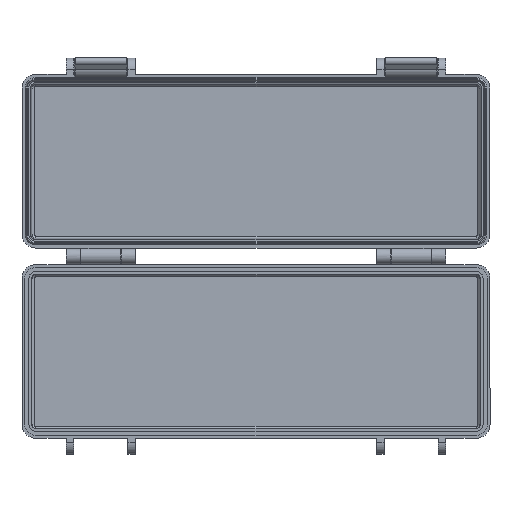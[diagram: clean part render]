
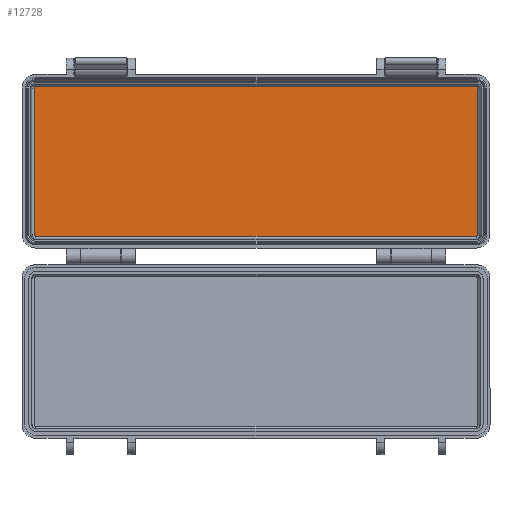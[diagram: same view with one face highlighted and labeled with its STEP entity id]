
A CAD part, top view. The second image highlights one B-rep face of the part: STEP entity #12728.
In plain terms, the highlighted planar face has unit normal (0, 0, 1) as drawn and (0, 1, 0) by its records, which use the part's own axes.
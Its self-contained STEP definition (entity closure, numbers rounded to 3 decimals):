
#708=PLANE('',#14074);
#1370=FACE_OUTER_BOUND('',#2108,.T.);
#2108=EDGE_LOOP('',(#11434,#11435,#11436,#11437,#11438,#11439,#11440,#11441));
#3244=LINE('',#21602,#4438);
#3277=LINE('',#21671,#4471);
#3281=LINE('',#21682,#4475);
#3282=LINE('',#21687,#4476);
#4438=VECTOR('',#17642,10.);
#4471=VECTOR('',#17727,10.);
#4475=VECTOR('',#17739,10.);
#4476=VECTOR('',#17746,10.);
#4988=CIRCLE('',#14075,0.75);
#4989=CIRCLE('',#14076,0.75);
#4990=CIRCLE('',#14077,0.75);
#4991=CIRCLE('',#14078,0.75);
#6128=VERTEX_POINT('',#21600);
#6129=VERTEX_POINT('',#21601);
#6138=VERTEX_POINT('',#21669);
#6139=VERTEX_POINT('',#21670);
#6140=VERTEX_POINT('',#21678);
#6141=VERTEX_POINT('',#21679);
#6142=VERTEX_POINT('',#21681);
#6143=VERTEX_POINT('',#21685);
#7902=EDGE_CURVE('',#6128,#6129,#3244,.T.);
#7935=EDGE_CURVE('',#6138,#6139,#3277,.T.);
#7939=EDGE_CURVE('',#6140,#6141,#4988,.T.);
#7940=EDGE_CURVE('',#6142,#6140,#3281,.T.);
#7941=EDGE_CURVE('',#6139,#6142,#4989,.T.);
#7942=EDGE_CURVE('',#6129,#6138,#4990,.T.);
#7943=EDGE_CURVE('',#6143,#6128,#4991,.T.);
#7944=EDGE_CURVE('',#6141,#6143,#3282,.T.);
#11434=ORIENTED_EDGE('',*,*,#7939,.F.);
#11435=ORIENTED_EDGE('',*,*,#7940,.F.);
#11436=ORIENTED_EDGE('',*,*,#7941,.F.);
#11437=ORIENTED_EDGE('',*,*,#7935,.F.);
#11438=ORIENTED_EDGE('',*,*,#7942,.F.);
#11439=ORIENTED_EDGE('',*,*,#7902,.F.);
#11440=ORIENTED_EDGE('',*,*,#7943,.F.);
#11441=ORIENTED_EDGE('',*,*,#7944,.F.);
#12728=ADVANCED_FACE('',(#1370),#708,.T.);
#14074=AXIS2_PLACEMENT_3D('',#21677,#17735,#17736);
#14075=AXIS2_PLACEMENT_3D('',#21680,#17737,#17738);
#14076=AXIS2_PLACEMENT_3D('',#21683,#17740,#17741);
#14077=AXIS2_PLACEMENT_3D('',#21684,#17742,#17743);
#14078=AXIS2_PLACEMENT_3D('',#21686,#17744,#17745);
#17642=DIRECTION('',(0.,0.,1.));
#17727=DIRECTION('',(-1.,0.,0.));
#17735=DIRECTION('center_axis',(0.,1.,0.));
#17736=DIRECTION('ref_axis',(1.,0.,0.));
#17737=DIRECTION('center_axis',(0.,-1.,0.));
#17738=DIRECTION('ref_axis',(-1.,0.,0.));
#17739=DIRECTION('',(0.,0.,-1.));
#17740=DIRECTION('center_axis',(0.,-1.,0.));
#17741=DIRECTION('ref_axis',(0.,0.,1.));
#17742=DIRECTION('center_axis',(0.,-1.,0.));
#17743=DIRECTION('ref_axis',(1.,0.,0.));
#17744=DIRECTION('center_axis',(0.,-1.,0.));
#17745=DIRECTION('ref_axis',(0.,0.,-1.));
#17746=DIRECTION('',(1.,0.,0.));
#21600=CARTESIAN_POINT('',(32.5,2.4,-95.75));
#21601=CARTESIAN_POINT('',(32.5,2.4,95.75));
#21602=CARTESIAN_POINT('',(32.5,2.4,0.));
#21669=CARTESIAN_POINT('',(31.75,2.4,96.5));
#21670=CARTESIAN_POINT('',(-31.75,2.4,96.5));
#21671=CARTESIAN_POINT('',(31.75,2.4,96.5));
#21677=CARTESIAN_POINT('Origin',(0.,2.4,0.));
#21678=CARTESIAN_POINT('',(-32.5,2.4,-95.75));
#21679=CARTESIAN_POINT('',(-31.75,2.4,-96.5));
#21680=CARTESIAN_POINT('Origin',(-31.75,2.4,-95.75));
#21681=CARTESIAN_POINT('',(-32.5,2.4,95.75));
#21682=CARTESIAN_POINT('',(-32.5,2.4,95.75));
#21683=CARTESIAN_POINT('Origin',(-31.75,2.4,95.75));
#21684=CARTESIAN_POINT('Origin',(31.75,2.4,95.75));
#21685=CARTESIAN_POINT('',(31.75,2.4,-96.5));
#21686=CARTESIAN_POINT('Origin',(31.75,2.4,-95.75));
#21687=CARTESIAN_POINT('',(-31.75,2.4,-96.5));
